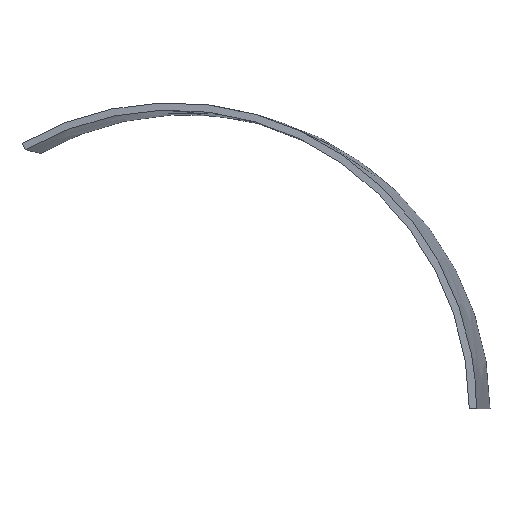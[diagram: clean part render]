
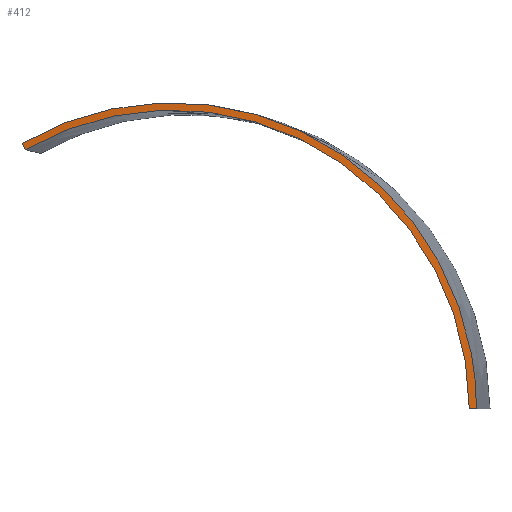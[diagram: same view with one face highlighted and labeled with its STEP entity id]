
A CAD part, front view. The second image highlights one B-rep face of the part: STEP entity #412.
In plain terms, the highlighted free-form (B-spline) face has degree [1, 3] with [2, 10] control points.
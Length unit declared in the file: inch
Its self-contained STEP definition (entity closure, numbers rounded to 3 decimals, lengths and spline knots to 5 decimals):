
#8 = CARTESIAN_POINT ( 'NONE',  ( 147.7235, -23.3971, 10.87634 ) ) ;
#11 = CARTESIAN_POINT ( 'NONE',  ( 148.43724, -23.43828, 11.13799 ) ) ;
#20 = CARTESIAN_POINT ( 'NONE',  ( 102.93604, -16.31143, 27.58712 ) ) ;
#37 = CARTESIAN_POINT ( 'NONE',  ( 102.93604, -16.31143, 27.58712 ) ) ;
#44 = FACE_OUTER_BOUND ( 'NONE', #417, .T. ) ;
#58 = CARTESIAN_POINT ( 'NONE',  ( 142.92936, -22.57571, 20.75113 ) ) ;
#82 = CARTESIAN_POINT ( 'NONE',  ( 129.2062, -20.46425, 29.58674 ) ) ;
#84 = CARTESIAN_POINT ( 'NONE',  ( 129.4701, -20.46786, 30.30091 ) ) ;
#86 = CARTESIAN_POINT ( 'NONE',  ( 113.22537, -17.93314, 31.04212 ) ) ;
#89 = CARTESIAN_POINT ( 'NONE',  ( 138.48821, -21.93438, 24.16097 ) ) ;
#90 = CARTESIAN_POINT ( 'NONE',  ( 149.92025, -23.67052, 0.12801 ) ) ;
#110 = CARTESIAN_POINT ( 'NONE',  ( 142.92936, -22.57571, 20.75113 ) ) ;
#124 = CARTESIAN_POINT ( 'NONE',  ( 113.22537, -17.93314, 31.04212 ) ) ;
#129 = CARTESIAN_POINT ( 'NONE',  ( 107.9568, -17.09868, 29.63007 ) ) ;
#132 = EDGE_CURVE ( 'NONE', #180, #301, #386, .T. ) ;
#156 = B_SPLINE_CURVE_WITH_KNOTS ( 'NONE', 1,
 ( #183, #339 ),
 .UNSPECIFIED., .F., .F.,
 ( 2, 2 ),
 ( 0., 1. ),
 .UNSPECIFIED. ) ;
#159 = CARTESIAN_POINT ( 'NONE',  ( 102.93604, -16.31143, 27.58712 ) ) ;
#161 = CARTESIAN_POINT ( 'NONE',  ( 149.17156, -23.62645, 0.125 ) ) ;
#165 = CARTESIAN_POINT ( 'NONE',  ( 124.07867, -19.62347, 31.76952 ) ) ;
#167 = CARTESIAN_POINT ( 'NONE',  ( 147.7235, -23.3971, 10.87634 ) ) ;
#174 = CARTESIAN_POINT ( 'NONE',  ( 124.07867, -19.62347, 31.76952 ) ) ;
#180 = VERTEX_POINT ( 'NONE', #159 ) ;
#183 = CARTESIAN_POINT ( 'NONE',  ( 103.30504, -16.36191, 26.93613 ) ) ;
#196 = CARTESIAN_POINT ( 'NONE',  ( 149.14997, -23.62303, 5.55072 ) ) ;
#198 = VERTEX_POINT ( 'NONE', #443 ) ;
#201 = CARTESIAN_POINT ( 'NONE',  ( 149.89815, -23.66706, 5.68421 ) ) ;
#205 = CARTESIAN_POINT ( 'NONE',  ( 123.94329, -19.63069, 31.02026 ) ) ;
#219 = CARTESIAN_POINT ( 'NONE',  ( 107.70142, -17.05809, 30.34623 ) ) ;
#220 = EDGE_CURVE ( 'NONE', #392, #180, #156, .T. ) ;
#245 = ORIENTED_EDGE ( 'NONE', *, *, #220, .F. ) ;
#249 = CARTESIAN_POINT ( 'NONE',  ( 129.2062, -20.46425, 29.58674 ) ) ;
#276 = CARTESIAN_POINT ( 'NONE',  ( 148.43724, -23.43828, 11.13799 ) ) ;
#285 = CARTESIAN_POINT ( 'NONE',  ( 107.70141, -17.05809, 30.34622 ) ) ;
#288 = CARTESIAN_POINT ( 'NONE',  ( 123.94329, -19.63069, 31.02026 ) ) ;
#295 = CARTESIAN_POINT ( 'NONE',  ( 103.30504, -16.36191, 26.93613 ) ) ;
#299 = CARTESIAN_POINT ( 'NONE',  ( 138.97808, -21.95693, 24.74338 ) ) ;
#301 = VERTEX_POINT ( 'NONE', #90 ) ;
#322 = CARTESIAN_POINT ( 'NONE',  ( 103.30504, -16.36191, 26.93613 ) ) ;
#327 = CARTESIAN_POINT ( 'NONE',  ( 103.30504, -16.36191, 26.93613 ) ) ;
#330 = CARTESIAN_POINT ( 'NONE',  ( 113.09887, -17.90363, 31.79238 ) ) ;
#333 = CARTESIAN_POINT ( 'NONE',  ( 149.14997, -23.62303, 5.55072 ) ) ;
#339 = CARTESIAN_POINT ( 'NONE',  ( 102.93604, -16.31143, 27.58712 ) ) ;
#357 = B_SPLINE_CURVE_WITH_KNOTS ( 'NONE', 3,
 ( #295, #460, #124, #288, #249, #407, #371, #8, #196, #512 ),
 .UNSPECIFIED., .F., .F.,
 ( 4, 2, 2, 2, 4 ),
 ( 0., 0.25, 0.5, 0.75, 1. ),
 .UNSPECIFIED. ) ;
#359 = CARTESIAN_POINT ( 'NONE',  ( 149.92025, -23.67052, 0.12801 ) ) ;
#362 = CARTESIAN_POINT ( 'NONE',  ( 149.92025, -23.67052, 0.12801 ) ) ;
#371 = CARTESIAN_POINT ( 'NONE',  ( 142.34584, -22.54537, 20.2631 ) ) ;
#386 = B_SPLINE_CURVE_WITH_KNOTS ( 'NONE', 3,
 ( #37, #285, #479, #165, #84, #393, #110, #276, #201, #359 ),
 .UNSPECIFIED., .F., .F.,
 ( 4, 2, 2, 2, 4 ),
 ( 0., 0.25, 0.5, 0.75, 1. ),
 .UNSPECIFIED. ) ;
#391 = EDGE_CURVE ( 'NONE', #198, #301, #488, .T. ) ;
#392 = VERTEX_POINT ( 'NONE', #322 ) ;
#393 = CARTESIAN_POINT ( 'NONE',  ( 138.97808, -21.95693, 24.74338 ) ) ;
#395 = CARTESIAN_POINT ( 'NONE',  ( 149.92025, -23.67052, 0.12801 ) ) ;
#403 = B_SPLINE_SURFACE_WITH_KNOTS ( 'NONE', 1, 3, ( 
 ( #362, #482, #11, #58, #299, #501, #174, #330, #219, #20 ),
 ( #506, #333, #167, #454, #89, #82, #205, #86, #129, #327 ) ),
 .UNSPECIFIED., .F., .F., .F.,
 ( 2, 2 ),
 ( 4, 2, 2, 2, 4 ),
 ( 0., 1. ),
 ( 0., 0.25, 0.5, 0.75, 1. ),
 .UNSPECIFIED. ) ;
#407 = CARTESIAN_POINT ( 'NONE',  ( 138.48821, -21.93438, 24.16097 ) ) ;
#412 = ADVANCED_FACE ( 'NONE', ( #44 ), #403, .F. ) ;
#417 = EDGE_LOOP ( 'NONE', ( #245, #491, #435, #520 ) ) ;
#435 = ORIENTED_EDGE ( 'NONE', *, *, #391, .T. ) ;
#443 = CARTESIAN_POINT ( 'NONE',  ( 149.17156, -23.62645, 0.125 ) ) ;
#454 = CARTESIAN_POINT ( 'NONE',  ( 142.34584, -22.54537, 20.2631 ) ) ;
#460 = CARTESIAN_POINT ( 'NONE',  ( 107.9568, -17.09868, 29.63007 ) ) ;
#479 = CARTESIAN_POINT ( 'NONE',  ( 113.09887, -17.90363, 31.79238 ) ) ;
#482 = CARTESIAN_POINT ( 'NONE',  ( 149.89815, -23.66706, 5.68421 ) ) ;
#486 = EDGE_CURVE ( 'NONE', #392, #198, #357, .T. ) ;
#488 = B_SPLINE_CURVE_WITH_KNOTS ( 'NONE', 1,
 ( #161, #395 ),
 .UNSPECIFIED., .F., .F.,
 ( 2, 2 ),
 ( 0., 1. ),
 .UNSPECIFIED. ) ;
#491 = ORIENTED_EDGE ( 'NONE', *, *, #486, .T. ) ;
#501 = CARTESIAN_POINT ( 'NONE',  ( 129.4701, -20.46786, 30.30091 ) ) ;
#506 = CARTESIAN_POINT ( 'NONE',  ( 149.17156, -23.62645, 0.125 ) ) ;
#512 = CARTESIAN_POINT ( 'NONE',  ( 149.17156, -23.62645, 0.125 ) ) ;
#520 = ORIENTED_EDGE ( 'NONE', *, *, #132, .F. ) ;
